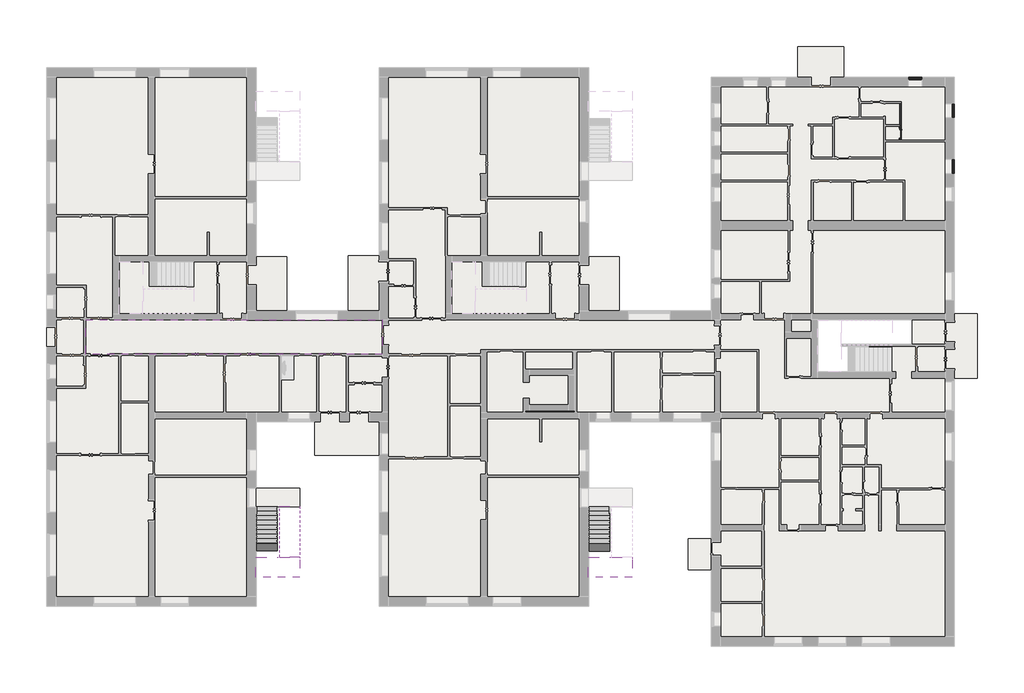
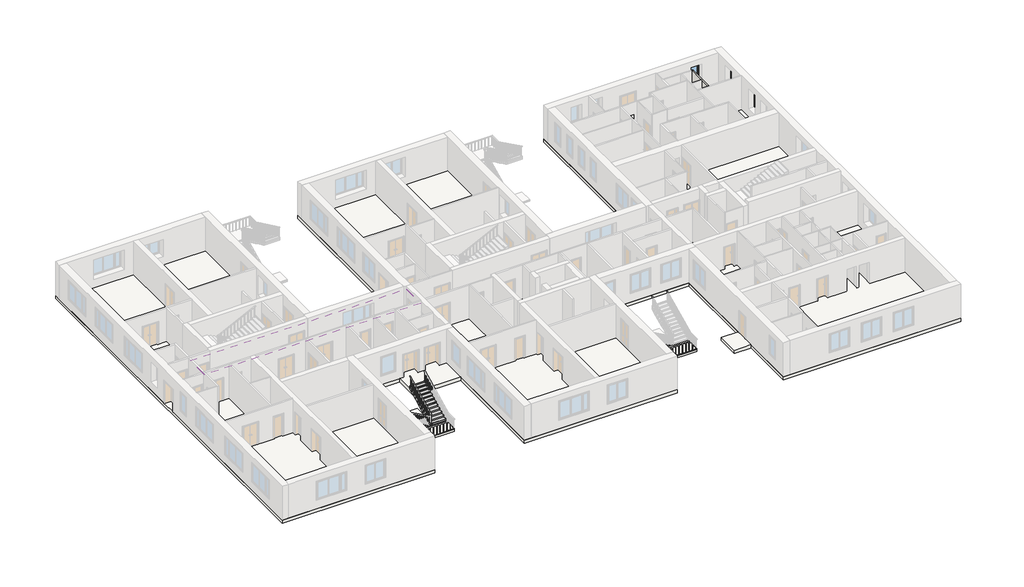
# One storey, part 6 of 10: 4 slabs, 3 stair flights, 3 windows, 1 covering, 1 door, 1 wall.
"""IFC4 building model written with IfcOpenShell, lengths in millimetres."""

from ifc_helpers import new_model, si_unit, frame, origin, origin_with_axes, place, context, project, spatial, polyline, outline, extrude, faceted_brep, transform, mapped, element, save
from components import door_4404b6de, window_74172d11

model = new_model("IFC4")

# Units and contexts
model_context = context("Model", 3, world=origin())
ifc_project = project(units=[si_unit("LENGTHUNIT", "METRE", prefix="MILLI")], contexts=[model_context])

# Site, building, storey
site = spatial("IfcSite", under=ifc_project)
building = spatial("IfcBuilding", under=site)
storey = spatial("IfcBuildingStorey", under=building, Name="1 этаж", Elevation=0.0)

# Covering
placement = place(None, origin())
element("IfcCovering", 1, ObjectType="ADSK_Армстронг_600х600", at=placement, inside=storey, context=model_context, shape_type="SweptSolid", body=[
    extrude(outline(polyline([(-16592.3240021, 6244.6370105), (-16592.3240021, 3999.6370105), (-35897.3240021, 3999.6370105), (-35897.3240021, 6244.6370105), (-16592.3240021, 6244.6370105)])), frame((0.0, 0.0, 2900.0), z_axis=(0.0, 0.0, 1.0), x_axis=(1.0, 0.0, 0.0)), (0.0, 0.0, 1.0), 52.0),
])

# Door
door_shape = door_4404b6de(model_context)
element("IfcDoor", 2, ObjectType="Внутренняя дверь 1-Навесная - 6629-88 : ДГ 21-7  ГОСТ 6629-88", at=placement, inside=storey, context=model_context, shape_type="MappedRepresentation", body=[
    mapped(door_shape, transform((17147.6759979, 18384.6370105, 0.0), x_axis=(0.0, -1.0, 0.0), y_axis=(1.0, 0.0, 0.0), z_axis=(0.0, 0.0, 1.0))),
])

# Slabs
element("IfcSlab", 3, ObjectType="ADSK_Перекрытие_Плита с полом_Бетон220 лаги40 доска40_300", at=placement, inside=storey, context=model_context, shape_type="SweptSolid", body=[
    extrude(outline(polyline([(4837.6759979, -15025.3629895), (4837.6759979, -10025.3421774), (3337.6759979, -10025.3421774), (3337.6759979, -8025.3421774), (4837.6759979, -8025.3421774), (4837.6759979, -385.3629895), (-3162.3240021, -385.3629895), (-3162.3240021, -12415.3629895), (-16802.3240021, -12415.3629895), (-16802.3240021, -2585.3629895), (-21002.3240021, -2585.3629895), (-21002.3240021, -385.3629895), (-24802.3240021, -385.3629895), (-24802.3240021, -12415.3629895), (-38442.3240021, -12415.3629895), (-38442.3240021, 22644.6370105), (-24802.3240021, 22644.6370105), (-24802.3240021, 10334.6370105), (-22802.3240021, 10334.6370105), (-22802.3240021, 6834.6370105), (-18812.3240021, 6834.6370105), (-18812.3240021, 10404.6370105), (-16802.3240021, 10404.6370105), (-16802.3240021, 22644.6370105), (-3162.3240021, 22644.6370105), (-3162.3240021, 10334.6370105), (-1162.3240021, 10334.6370105), (-1162.3240021, 6834.6370105), (4837.6759979, 6834.6370105), (4837.6759979, 22034.6370105), (10454.2700808, 22034.6370105), (10454.2700808, 24034.6370105), (13454.2700808, 24034.6370105), (13454.2700808, 22034.6370105), (20667.6759979, 22034.6370105), (20667.6759979, 6624.6370105), (22167.6759979, 6624.6370105), (22167.6759979, 2444.6370105), (20667.6759979, 2444.6370105), (20667.6759979, -15025.3629895), (4837.6759979, -15025.3629895)]), holes=[polyline([(17875.1759979, 6244.6370105), (11737.6759979, 6244.6370105), (11737.6759979, 2844.6370105), (15083.3708722, 2844.6370105), (15083.3708722, 4519.5648158), (17875.1759979, 4519.5648158), (17875.1759979, 6244.6370105)])]), frame((0.0, 0.0, -300.0), z_axis=(0.0, 0.0, 1.0), x_axis=(1.0, 0.0, 0.0)), (0.0, 0.0, 1.0), 300.0),
])
element("IfcSlab", 4, ObjectType="ADSK_Монолитная_С отделкой_200х80", at=placement, inside=storey, context=model_context, shape_type="SolidModel", body=[
    faceted_brep([(-23422.7240021, -9226.3785186, 1670.0), (-23422.7240021, -9241.3785186, 1670.0), (-24802.3240021, -9241.3785186, 1670.0), (-24802.3240021, -9226.3785186, 1670.0), (-24822.3240021, -9226.3785186, 1670.0), (-24822.3240021, -10515.9785186, 1670.0), (-21952.7240021, -10515.9785186, 1670.0), (-21952.7240021, -9382.5661033, 1670.0), (-21952.7240021, -9226.3785186, 1670.0), (-21952.7240021, -9211.3785186, 1670.0), (-23281.9240021, -9211.3785186, 1670.0), (-23281.9240021, -9226.3785186, 1670.0), (-24802.3240021, -9226.3785186, 1470.0), (-24822.3240021, -9226.3785186, 1470.0), (-23281.9240021, -9226.3785186, 1545.9245203), (-23281.9240021, -9226.3785186, 1470.0), (-23422.7240021, -9226.3785186, 1470.0), (-21952.7240021, -9211.3785186, 1553.216187), (-23281.9240021, -9211.3785186, 1553.216187), (-21952.7240021, -10515.9785186, 1470.0), (-21952.7240021, -9382.5661033, 1470.0), (-21952.7240021, -9226.3785186, 1545.9245203), (-24822.3240021, -10515.9785186, 1470.0), (-23281.9240021, -9382.5661033, 1470.0), (-24802.3240021, -9241.3785186, 1470.0), (-24802.3240021, -9370.1909339, 1470.0), (-23422.7240021, -9370.1909339, 1470.0), (-23422.7240021, -9241.3785186, 1470.0), (-24802.3240021, -9241.3785186, 1407.3828537), (-23422.7240021, -9241.3785186, 1407.3828537), (-23422.7240021, -9241.3785186, 1574.1666667), (-24802.3240021, -9241.3785186, 1574.1666667)], [[[0, 1, 2, 3, 4, 5, 6, 7, 8, 9, 10, 11]], [[4, 3, 12, 13]], [[0, 11, 14, 15, 16]], [[10, 9, 17, 18]], [[6, 19, 20, 21, 8, 7]], [[6, 5, 22, 19]], [[5, 4, 13, 22]], [[15, 23, 20, 19, 22, 13, 12, 24, 25, 26, 27, 16]], [[26, 25, 28, 29]], [[27, 26, 29]], [[25, 24, 28]], [[20, 23, 14, 18, 17, 21]], [[2, 1, 30, 27, 29, 28, 24, 31]], [[3, 2, 31, 24, 12]], [[1, 0, 16, 27, 30]], [[9, 8, 21, 17]], [[11, 10, 18, 14]], [[23, 15, 14]]]),
    extrude(outline(polyline([(-23422.7240021, -9226.3785186), (-23281.9240021, -9226.3785186), (-21952.7240021, -9226.3785186), (-21952.7240021, -10515.9785186), (-24822.3240021, -10515.9785186), (-24822.3240021, -9226.3785186), (-24802.3240021, -9226.3785186), (-23422.7240021, -9226.3785186)])), frame((0.0, 0.0, 1670.0), z_axis=(0.0, 0.0, 1.0), x_axis=(1.0, 0.0, 0.0)), (0.0, 0.0, 1.0), 80.0),
])
element("IfcSlab", 5, ObjectType="ADSK_Монолитная_С отделкой_200х80", at=placement, inside=storey, context=model_context, shape_type="SweptSolid", body=[
    extrude(outline(polyline([(-24802.3240021, -4725.3629895), (-21952.3240021, -4725.3629895), (-21952.3240021, -5926.3785186), (-24802.3240021, -5926.3785186), (-24802.3240021, -4725.3629895)])), origin_with_axes(), (0.0, 0.0, 1.0), 65.8333333),
    extrude(outline(polyline([(-21952.3240021, -4725.3629895), (-21952.3240021, -5926.3785186), (-24802.3240021, -5926.3785186), (-24802.3240021, -4725.3629895), (-21952.3240021, -4725.3629895)])), frame((0.0, 0.0, 65.8333333), z_axis=(0.0, 0.0, 1.0), x_axis=(1.0, 0.0, 0.0)), (0.0, 0.0, 1.0), 80.0),
])
element("IfcSlab", 6, ObjectType="ADSK_Монолитная_С отделкой_200х80", at=placement, inside=storey, context=model_context, shape_type="SolidModel", body=[
    faceted_brep([(-1782.7240021, -9231.5777713, 1670.0), (-1782.7240021, -9246.5777713, 1670.0), (-3162.3240021, -9246.5777713, 1670.0), (-3162.3240021, -9231.5777713, 1670.0), (-3182.3240021, -9231.5777713, 1670.0), (-3182.3240021, -10521.1777713, 1670.0), (-312.7240021, -10521.1777713, 1670.0), (-312.7240021, -9387.765356, 1670.0), (-312.7240021, -9231.5777713, 1670.0), (-312.7240021, -9216.5777713, 1670.0), (-1641.9240021, -9216.5777713, 1670.0), (-1641.9240021, -9231.5777713, 1670.0), (-3162.3240021, -9231.5777713, 1470.0), (-3182.3240021, -9231.5777713, 1470.0), (-1641.9240021, -9231.5777713, 1545.9245203), (-1641.9240021, -9231.5777713, 1470.0), (-1782.7240021, -9231.5777713, 1470.0), (-312.7240021, -9216.5777713, 1553.216187), (-1641.9240021, -9216.5777713, 1553.216187), (-312.7240021, -10521.1777713, 1470.0), (-312.7240021, -9387.765356, 1470.0), (-312.7240021, -9231.5777713, 1545.9245203), (-3182.3240021, -10521.1777713, 1470.0), (-1641.9240021, -9387.765356, 1470.0), (-3162.3240021, -9246.5777713, 1470.0), (-3162.3240021, -9375.3901866, 1470.0), (-1782.7240021, -9375.3901866, 1470.0), (-1782.7240021, -9246.5777713, 1470.0), (-3162.3240021, -9246.5777713, 1407.3828537), (-1782.7240021, -9246.5777713, 1407.3828537), (-1782.7240021, -9246.5777713, 1574.1666667), (-3162.3240021, -9246.5777713, 1574.1666667)], [[[0, 1, 2, 3, 4, 5, 6, 7, 8, 9, 10, 11]], [[4, 3, 12, 13]], [[0, 11, 14, 15, 16]], [[10, 9, 17, 18]], [[6, 19, 20, 21, 8, 7]], [[6, 5, 22, 19]], [[5, 4, 13, 22]], [[15, 23, 20, 19, 22, 13, 12, 24, 25, 26, 27, 16]], [[26, 25, 28, 29]], [[27, 26, 29]], [[25, 24, 28]], [[20, 23, 14, 18, 17, 21]], [[2, 1, 30, 27, 29, 28, 24, 31]], [[3, 2, 31, 24, 12]], [[1, 0, 16, 27, 30]], [[9, 8, 21, 17]], [[11, 10, 18, 14]], [[23, 15, 14]]]),
    extrude(outline(polyline([(-1782.7240021, -9231.5777713), (-1641.9240021, -9231.5777713), (-312.7240021, -9231.5777713), (-312.7240021, -10521.1777713), (-3182.3240021, -10521.1777713), (-3182.3240021, -9231.5777713), (-3162.3240021, -9231.5777713), (-1782.7240021, -9231.5777713)])), frame((0.0, 0.0, 1670.0), z_axis=(0.0, 0.0, 1.0), x_axis=(1.0, 0.0, 0.0)), (0.0, 0.0, 1.0), 80.0),
])

# Stair flights
element("IfcStairFlight", 7, ObjectType="ADSK_Монолитный_С отделкой_150х30х15", at=placement, inside=storey, context=model_context, shape_type="SolidModel", body=[
    faceted_brep([(-23422.7240021, -6241.3785186, 115.8333333), (-23422.7240021, -5941.3785186, 115.8333333), (-24802.3240021, -5941.3785186, 115.8333333), (-24802.3240021, -6241.3785186, 115.8333333), (-24802.3240021, -5941.3785186, 0.0), (-24802.3240021, -6241.3785186, 0.0), (-23422.7240021, -5941.3785186, 0.0), (-23422.7240021, -6241.3785186, 0.0), (-23422.7240021, -6541.3785186, 261.6666667), (-23422.7240021, -6241.3785186, 261.6666667), (-24802.3240021, -6241.3785186, 261.6666667), (-24802.3240021, -6541.3785186, 261.6666667), (-24802.3240021, -6346.1909339, 0.0), (-24802.3240021, -6541.3785186, 94.8828537), (-23422.7240021, -6541.3785186, 94.8828537), (-23422.7240021, -6346.1909339, 0.0), (-23422.7240021, -6841.3785186, 407.5), (-23422.7240021, -6541.3785186, 407.5), (-24802.3240021, -6541.3785186, 407.5), (-24802.3240021, -6841.3785186, 407.5), (-24802.3240021, -6841.3785186, 240.716187), (-23422.7240021, -6841.3785186, 240.716187), (-23422.7240021, -7141.3785186, 553.3333333), (-23422.7240021, -6841.3785186, 553.3333333), (-24802.3240021, -6841.3785186, 553.3333333), (-24802.3240021, -7141.3785186, 553.3333333), (-24802.3240021, -7141.3785186, 386.5495203), (-23422.7240021, -7141.3785186, 386.5495203), (-23422.7240021, -7441.3785186, 699.1666667), (-23422.7240021, -7141.3785186, 699.1666667), (-24802.3240021, -7141.3785186, 699.1666667), (-24802.3240021, -7441.3785186, 699.1666667), (-24802.3240021, -7441.3785186, 532.3828537), (-23422.7240021, -7441.3785186, 532.3828537), (-23422.7240021, -7741.3785186, 845.0), (-23422.7240021, -7441.3785186, 845.0), (-24802.3240021, -7441.3785186, 845.0), (-24802.3240021, -7741.3785186, 845.0), (-24802.3240021, -7741.3785186, 678.216187), (-23422.7240021, -7741.3785186, 678.216187), (-23422.7240021, -8041.3785186, 990.8333333), (-23422.7240021, -7741.3785186, 990.8333333), (-24802.3240021, -7741.3785186, 990.8333333), (-24802.3240021, -8041.3785186, 990.8333333), (-24802.3240021, -8041.3785186, 824.0495203), (-23422.7240021, -8041.3785186, 824.0495203), (-23422.7240021, -8341.3785186, 1136.6666667), (-23422.7240021, -8041.3785186, 1136.6666667), (-24802.3240021, -8041.3785186, 1136.6666667), (-24802.3240021, -8341.3785186, 1136.6666667), (-24802.3240021, -8341.3785186, 969.8828537), (-23422.7240021, -8341.3785186, 969.8828537), (-23422.7240021, -8641.3785186, 1282.5), (-23422.7240021, -8341.3785186, 1282.5), (-24802.3240021, -8341.3785186, 1282.5), (-24802.3240021, -8641.3785186, 1282.5), (-24802.3240021, -8641.3785186, 1115.716187), (-23422.7240021, -8641.3785186, 1115.716187), (-23422.7240021, -8941.3785186, 1428.3333333), (-23422.7240021, -8641.3785186, 1428.3333333), (-24802.3240021, -8641.3785186, 1428.3333333), (-24802.3240021, -8941.3785186, 1428.3333333), (-24802.3240021, -8941.3785186, 1261.5495203), (-23422.7240021, -8941.3785186, 1261.5495203), (-23422.7240021, -8941.3785186, 1574.1666667), (-24802.3240021, -8941.3785186, 1574.1666667), (-24802.3240021, -9226.3785186, 1574.1666667), (-24802.3240021, -9241.3785186, 1574.1666667), (-23422.7240021, -9241.3785186, 1574.1666667), (-23422.7240021, -9226.3785186, 1574.1666667), (-24802.3240021, -9241.3785186, 1407.3828537), (-24802.3240021, -9241.3785186, 1470.0), (-23422.7240021, -9241.3785186, 1470.0), (-23422.7240021, -9241.3785186, 1407.3828537)], [[[0, 1, 2, 3]], [[3, 2, 4, 5]], [[2, 1, 6, 4]], [[1, 0, 7, 6]], [[8, 9, 10, 11]], [[3, 5, 12, 13, 11, 10]], [[0, 3, 10, 9]], [[7, 0, 9, 8, 14, 15]], [[16, 17, 18, 19]], [[19, 18, 11, 13, 20]], [[8, 11, 18, 17]], [[17, 16, 21, 14, 8]], [[22, 23, 24, 25]], [[25, 24, 19, 20, 26]], [[16, 19, 24, 23]], [[23, 22, 27, 21, 16]], [[28, 29, 30, 31]], [[31, 30, 25, 26, 32]], [[22, 25, 30, 29]], [[29, 28, 33, 27, 22]], [[34, 35, 36, 37]], [[37, 36, 31, 32, 38]], [[28, 31, 36, 35]], [[35, 34, 39, 33, 28]], [[40, 41, 42, 43]], [[43, 42, 37, 38, 44]], [[34, 37, 42, 41]], [[41, 40, 45, 39, 34]], [[46, 47, 48, 49]], [[49, 48, 43, 44, 50]], [[40, 43, 48, 47]], [[47, 46, 51, 45, 40]], [[52, 53, 54, 55]], [[55, 54, 49, 50, 56]], [[46, 49, 54, 53]], [[53, 52, 57, 51, 46]], [[58, 59, 60, 61]], [[61, 60, 55, 56, 62]], [[52, 55, 60, 59]], [[59, 58, 63, 57, 52]], [[64, 65, 66, 67, 68, 69]], [[65, 61, 62, 70, 71, 67, 66]], [[58, 61, 65, 64]], [[58, 64, 69, 68, 72, 73, 63]], [[68, 67, 71, 70, 73, 72]], [[6, 7, 15, 12, 5, 4]], [[12, 15, 14, 21, 27, 33, 39, 45, 51, 57, 63, 73, 70, 62, 56, 50, 44, 38, 32, 26, 20, 13]]]),
    extrude(outline(polyline([(-24802.3240021, -5941.3785186), (-24802.3240021, -5926.3785186), (-23422.7240021, -5926.3785186), (-23422.7240021, -5941.3785186), (-24802.3240021, -5941.3785186)])), origin_with_axes(), (0.0, 0.0, 1.0), 115.8333333),
    extrude(outline(polyline([(-23422.7240021, -6226.3785186), (-24802.3240021, -6226.3785186), (-24802.3240021, -5926.3785186), (-23422.7240021, -5926.3785186), (-23422.7240021, -6226.3785186)])), frame((0.0, 0.0, 115.8333333), z_axis=(0.0, 0.0, 1.0), x_axis=(1.0, 0.0, 0.0)), (0.0, 0.0, 1.0), 30.0),
    extrude(outline(polyline([(-24802.3240021, -6241.3785186), (-24802.3240021, -6226.3785186), (-23422.7240021, -6226.3785186), (-23422.7240021, -6241.3785186), (-24802.3240021, -6241.3785186)])), frame((0.0, 0.0, 115.8333333), z_axis=(0.0, 0.0, 1.0), x_axis=(1.0, 0.0, 0.0)), (0.0, 0.0, 1.0), 145.8333333),
    extrude(outline(polyline([(-23422.7240021, -6526.3785186), (-24802.3240021, -6526.3785186), (-24802.3240021, -6226.3785186), (-23422.7240021, -6226.3785186), (-23422.7240021, -6526.3785186)])), frame((0.0, 0.0, 261.6666667), z_axis=(0.0, 0.0, 1.0), x_axis=(1.0, 0.0, 0.0)), (0.0, 0.0, 1.0), 30.0),
    extrude(outline(polyline([(-24802.3240021, -6541.3785186), (-24802.3240021, -6526.3785186), (-23422.7240021, -6526.3785186), (-23422.7240021, -6541.3785186), (-24802.3240021, -6541.3785186)])), frame((0.0, 0.0, 261.6666667), z_axis=(0.0, 0.0, 1.0), x_axis=(1.0, 0.0, 0.0)), (0.0, 0.0, 1.0), 145.8333333),
    extrude(outline(polyline([(-23422.7240021, -6826.3785186), (-24802.3240021, -6826.3785186), (-24802.3240021, -6526.3785186), (-23422.7240021, -6526.3785186), (-23422.7240021, -6826.3785186)])), frame((0.0, 0.0, 407.5), z_axis=(0.0, 0.0, 1.0), x_axis=(1.0, 0.0, 0.0)), (0.0, 0.0, 1.0), 30.0),
    extrude(outline(polyline([(-24802.3240021, -6841.3785186), (-24802.3240021, -6826.3785186), (-23422.7240021, -6826.3785186), (-23422.7240021, -6841.3785186), (-24802.3240021, -6841.3785186)])), frame((0.0, 0.0, 407.5), z_axis=(0.0, 0.0, 1.0), x_axis=(1.0, 0.0, 0.0)), (0.0, 0.0, 1.0), 145.8333333),
    extrude(outline(polyline([(-23422.7240021, -7126.3785186), (-24802.3240021, -7126.3785186), (-24802.3240021, -6826.3785186), (-23422.7240021, -6826.3785186), (-23422.7240021, -7126.3785186)])), frame((0.0, 0.0, 553.3333333), z_axis=(0.0, 0.0, 1.0), x_axis=(1.0, 0.0, 0.0)), (0.0, 0.0, 1.0), 30.0),
    extrude(outline(polyline([(-24802.3240021, -7141.3785186), (-24802.3240021, -7126.3785186), (-23422.7240021, -7126.3785186), (-23422.7240021, -7141.3785186), (-24802.3240021, -7141.3785186)])), frame((0.0, 0.0, 553.3333333), z_axis=(0.0, 0.0, 1.0), x_axis=(1.0, 0.0, 0.0)), (0.0, 0.0, 1.0), 145.8333333),
    extrude(outline(polyline([(-23422.7240021, -7426.3785186), (-24802.3240021, -7426.3785186), (-24802.3240021, -7126.3785186), (-23422.7240021, -7126.3785186), (-23422.7240021, -7426.3785186)])), frame((0.0, 0.0, 699.1666667), z_axis=(0.0, 0.0, 1.0), x_axis=(1.0, 0.0, 0.0)), (0.0, 0.0, 1.0), 30.0),
    extrude(outline(polyline([(-24802.3240021, -7441.3785186), (-24802.3240021, -7426.3785186), (-23422.7240021, -7426.3785186), (-23422.7240021, -7441.3785186), (-24802.3240021, -7441.3785186)])), frame((0.0, 0.0, 699.1666667), z_axis=(0.0, 0.0, 1.0), x_axis=(1.0, 0.0, 0.0)), (0.0, 0.0, 1.0), 145.8333333),
    extrude(outline(polyline([(-23422.7240021, -7726.3785186), (-24802.3240021, -7726.3785186), (-24802.3240021, -7426.3785186), (-23422.7240021, -7426.3785186), (-23422.7240021, -7726.3785186)])), frame((0.0, 0.0, 845.0), z_axis=(0.0, 0.0, 1.0), x_axis=(1.0, 0.0, 0.0)), (0.0, 0.0, 1.0), 30.0),
    extrude(outline(polyline([(-24802.3240021, -7741.3785186), (-24802.3240021, -7726.3785186), (-23422.7240021, -7726.3785186), (-23422.7240021, -7741.3785186), (-24802.3240021, -7741.3785186)])), frame((0.0, 0.0, 845.0), z_axis=(0.0, 0.0, 1.0), x_axis=(1.0, 0.0, 0.0)), (0.0, 0.0, 1.0), 145.8333333),
    extrude(outline(polyline([(-23422.7240021, -8026.3785186), (-24802.3240021, -8026.3785186), (-24802.3240021, -7726.3785186), (-23422.7240021, -7726.3785186), (-23422.7240021, -8026.3785186)])), frame((0.0, 0.0, 990.8333333), z_axis=(0.0, 0.0, 1.0), x_axis=(1.0, 0.0, 0.0)), (0.0, 0.0, 1.0), 30.0),
    extrude(outline(polyline([(-24802.3240021, -8041.3785186), (-24802.3240021, -8026.3785186), (-23422.7240021, -8026.3785186), (-23422.7240021, -8041.3785186), (-24802.3240021, -8041.3785186)])), frame((0.0, 0.0, 990.8333333), z_axis=(0.0, 0.0, 1.0), x_axis=(1.0, 0.0, 0.0)), (0.0, 0.0, 1.0), 145.8333333),
    extrude(outline(polyline([(-23422.7240021, -8326.3785186), (-24802.3240021, -8326.3785186), (-24802.3240021, -8026.3785186), (-23422.7240021, -8026.3785186), (-23422.7240021, -8326.3785186)])), frame((0.0, 0.0, 1136.6666667), z_axis=(0.0, 0.0, 1.0), x_axis=(1.0, 0.0, 0.0)), (0.0, 0.0, 1.0), 30.0),
    extrude(outline(polyline([(-24802.3240021, -8341.3785186), (-24802.3240021, -8326.3785186), (-23422.7240021, -8326.3785186), (-23422.7240021, -8341.3785186), (-24802.3240021, -8341.3785186)])), frame((0.0, 0.0, 1136.6666667), z_axis=(0.0, 0.0, 1.0), x_axis=(1.0, 0.0, 0.0)), (0.0, 0.0, 1.0), 145.8333333),
    extrude(outline(polyline([(-23422.7240021, -8626.3785186), (-24802.3240021, -8626.3785186), (-24802.3240021, -8326.3785186), (-23422.7240021, -8326.3785186), (-23422.7240021, -8626.3785186)])), frame((0.0, 0.0, 1282.5), z_axis=(0.0, 0.0, 1.0), x_axis=(1.0, 0.0, 0.0)), (0.0, 0.0, 1.0), 30.0),
    extrude(outline(polyline([(-24802.3240021, -8641.3785186), (-24802.3240021, -8626.3785186), (-23422.7240021, -8626.3785186), (-23422.7240021, -8641.3785186), (-24802.3240021, -8641.3785186)])), frame((0.0, 0.0, 1282.5), z_axis=(0.0, 0.0, 1.0), x_axis=(1.0, 0.0, 0.0)), (0.0, 0.0, 1.0), 145.8333333),
    extrude(outline(polyline([(-23422.7240021, -8926.3785186), (-24802.3240021, -8926.3785186), (-24802.3240021, -8626.3785186), (-23422.7240021, -8626.3785186), (-23422.7240021, -8926.3785186)])), frame((0.0, 0.0, 1428.3333333), z_axis=(0.0, 0.0, 1.0), x_axis=(1.0, 0.0, 0.0)), (0.0, 0.0, 1.0), 30.0),
    extrude(outline(polyline([(-24802.3240021, -8941.3785186), (-24802.3240021, -8926.3785186), (-23422.7240021, -8926.3785186), (-23422.7240021, -8941.3785186), (-24802.3240021, -8941.3785186)])), frame((0.0, 0.0, 1428.3333333), z_axis=(0.0, 0.0, 1.0), x_axis=(1.0, 0.0, 0.0)), (0.0, 0.0, 1.0), 145.8333333),
    extrude(outline(polyline([(-24802.3240021, -9241.3785186), (-24802.3240021, -9226.3785186), (-23422.7240021, -9226.3785186), (-23422.7240021, -9241.3785186), (-24802.3240021, -9241.3785186)])), frame((0.0, 0.0, 1574.1666667), z_axis=(0.0, 0.0, 1.0), x_axis=(1.0, 0.0, 0.0)), (0.0, 0.0, 1.0), 95.8333333),
    extrude(outline(polyline([(-23422.7240021, -9226.3785186), (-24802.3240021, -9226.3785186), (-24802.3240021, -8926.3785186), (-23422.7240021, -8926.3785186), (-23422.7240021, -9226.3785186)])), frame((0.0, 0.0, 1574.1666667), z_axis=(0.0, 0.0, 1.0), x_axis=(1.0, 0.0, 0.0)), (0.0, 0.0, 1.0), 30.0),
])
element("IfcStairFlight", 8, ObjectType="ADSK_Монолитный_С отделкой_150х30х15", at=placement, inside=storey, context=model_context, shape_type="SolidModel", body=[
    faceted_brep([(-23281.9240021, -8911.3785186, 1865.8333333), (-23281.9240021, -9211.3785186, 1865.8333333), (-21952.7240021, -9211.3785186, 1865.8333333), (-21952.7240021, -8911.3785186, 1865.8333333), (-21952.7240021, -9211.3785186, 1670.0), (-21952.7240021, -9211.3785186, 1553.216187), (-21952.7240021, -8911.3785186, 1699.0495203), (-23281.9240021, -9211.3785186, 1670.0), (-23281.9240021, -9211.3785186, 1553.216187), (-23281.9240021, -8911.3785186, 1699.0495203), (-23281.9240021, -8611.3785186, 2011.6666667), (-23281.9240021, -8911.3785186, 2011.6666667), (-21952.7240021, -8911.3785186, 2011.6666667), (-21952.7240021, -8611.3785186, 2011.6666667), (-21952.7240021, -8611.3785186, 1844.8828537), (-23281.9240021, -8611.3785186, 1844.8828537), (-23281.9240021, -8311.3785186, 2157.5), (-23281.9240021, -8611.3785186, 2157.5), (-21952.7240021, -8611.3785186, 2157.5), (-21952.7240021, -8311.3785186, 2157.5), (-21952.7240021, -8311.3785186, 1990.716187), (-23281.9240021, -8311.3785186, 1990.716187), (-23281.9240021, -8011.3785186, 2303.3333333), (-23281.9240021, -8311.3785186, 2303.3333333), (-21952.7240021, -8311.3785186, 2303.3333333), (-21952.7240021, -8011.3785186, 2303.3333333), (-21952.7240021, -8011.3785186, 2136.5495203), (-23281.9240021, -8011.3785186, 2136.5495203), (-23281.9240021, -7711.3785186, 2449.1666667), (-23281.9240021, -8011.3785186, 2449.1666667), (-21952.7240021, -8011.3785186, 2449.1666667), (-21952.7240021, -7711.3785186, 2449.1666667), (-21952.7240021, -7711.3785186, 2282.3828537), (-23281.9240021, -7711.3785186, 2282.3828537), (-23281.9240021, -7411.3785186, 2595.0), (-23281.9240021, -7711.3785186, 2595.0), (-21952.7240021, -7711.3785186, 2595.0), (-21952.7240021, -7411.3785186, 2595.0), (-21952.7240021, -7411.3785186, 2428.216187), (-23281.9240021, -7411.3785186, 2428.216187), (-23281.9240021, -7111.3785186, 2740.8333333), (-23281.9240021, -7411.3785186, 2740.8333333), (-21952.7240021, -7411.3785186, 2740.8333333), (-21952.7240021, -7111.3785186, 2740.8333333), (-21952.7240021, -7111.3785186, 2574.0495203), (-23281.9240021, -7111.3785186, 2574.0495203), (-23281.9240021, -6811.3785186, 2886.6666667), (-23281.9240021, -7111.3785186, 2886.6666667), (-21952.7240021, -7111.3785186, 2886.6666667), (-21952.7240021, -6811.3785186, 2886.6666667), (-21952.7240021, -6811.3785186, 2719.8828537), (-23281.9240021, -6811.3785186, 2719.8828537), (-23281.9240021, -6511.3785186, 3032.5), (-23281.9240021, -6811.3785186, 3032.5), (-21952.7240021, -6811.3785186, 3032.5), (-21952.7240021, -6511.3785186, 3032.5), (-21952.7240021, -6511.3785186, 2865.716187), (-23281.9240021, -6511.3785186, 2865.716187), (-23281.9240021, -6211.3785186, 3178.3333333), (-23281.9240021, -6511.3785186, 3178.3333333), (-21952.7240021, -6511.3785186, 3178.3333333), (-21952.7240021, -6211.3785186, 3178.3333333), (-21952.7240021, -6211.3785186, 3011.5495203), (-23281.9240021, -6211.3785186, 3011.5495203), (-23281.9240021, -5911.3785186, 3324.1666667), (-23281.9240021, -6211.3785186, 3324.1666667), (-21952.7240021, -6211.3785186, 3324.1666667), (-21952.7240021, -5911.3785186, 3324.1666667), (-21952.7240021, -5911.3785186, 3157.3828537), (-23281.9240021, -5911.3785186, 3157.3828537)], [[[0, 1, 2, 3]], [[3, 2, 4, 5, 6]], [[2, 1, 7, 8, 5, 4]], [[1, 0, 9, 8, 7]], [[10, 11, 12, 13]], [[13, 12, 3, 6, 14]], [[12, 11, 0, 3]], [[11, 10, 15, 9, 0]], [[16, 17, 18, 19]], [[19, 18, 13, 14, 20]], [[18, 17, 10, 13]], [[17, 16, 21, 15, 10]], [[22, 23, 24, 25]], [[25, 24, 19, 20, 26]], [[24, 23, 16, 19]], [[23, 22, 27, 21, 16]], [[28, 29, 30, 31]], [[31, 30, 25, 26, 32]], [[30, 29, 22, 25]], [[29, 28, 33, 27, 22]], [[34, 35, 36, 37]], [[37, 36, 31, 32, 38]], [[36, 35, 28, 31]], [[35, 34, 39, 33, 28]], [[40, 41, 42, 43]], [[43, 42, 37, 38, 44]], [[42, 41, 34, 37]], [[41, 40, 45, 39, 34]], [[46, 47, 48, 49]], [[49, 48, 43, 44, 50]], [[48, 47, 40, 43]], [[47, 46, 51, 45, 40]], [[52, 53, 54, 55]], [[55, 54, 49, 50, 56]], [[54, 53, 46, 49]], [[53, 52, 57, 51, 46]], [[58, 59, 60, 61]], [[61, 60, 55, 56, 62]], [[60, 59, 52, 55]], [[59, 58, 63, 57, 52]], [[64, 65, 66, 67]], [[67, 66, 61, 62, 68]], [[66, 65, 58, 61]], [[65, 64, 69, 63, 58]], [[64, 67, 68, 69]], [[8, 9, 15, 21, 27, 33, 39, 45, 51, 57, 63, 69, 68, 62, 56, 50, 44, 38, 32, 26, 20, 14, 6, 5]]]),
    extrude(outline(polyline([(-21952.7240021, -9211.3785186), (-21952.7240021, -9226.3785186), (-23281.9240021, -9226.3785186), (-23281.9240021, -9211.3785186), (-21952.7240021, -9211.3785186)])), frame((0.0, 0.0, 1670.0), z_axis=(0.0, 0.0, 1.0), x_axis=(1.0, 0.0, 0.0)), (0.0, 0.0, 1.0), 195.8333333),
    extrude(outline(polyline([(-23281.9240021, -8926.3785186), (-21952.7240021, -8926.3785186), (-21952.7240021, -9226.3785186), (-23281.9240021, -9226.3785186), (-23281.9240021, -8926.3785186)])), frame((0.0, 0.0, 1865.8333333), z_axis=(0.0, 0.0, 1.0), x_axis=(1.0, 0.0, 0.0)), (0.0, 0.0, 1.0), 30.0),
    extrude(outline(polyline([(-21952.7240021, -8911.3785186), (-21952.7240021, -8926.3785186), (-23281.9240021, -8926.3785186), (-23281.9240021, -8911.3785186), (-21952.7240021, -8911.3785186)])), frame((0.0, 0.0, 1865.8333333), z_axis=(0.0, 0.0, 1.0), x_axis=(1.0, 0.0, 0.0)), (0.0, 0.0, 1.0), 145.8333333),
    extrude(outline(polyline([(-23281.9240021, -8626.3785186), (-21952.7240021, -8626.3785186), (-21952.7240021, -8926.3785186), (-23281.9240021, -8926.3785186), (-23281.9240021, -8626.3785186)])), frame((0.0, 0.0, 2011.6666667), z_axis=(0.0, 0.0, 1.0), x_axis=(1.0, 0.0, 0.0)), (0.0, 0.0, 1.0), 30.0),
    extrude(outline(polyline([(-21952.7240021, -8611.3785186), (-21952.7240021, -8626.3785186), (-23281.9240021, -8626.3785186), (-23281.9240021, -8611.3785186), (-21952.7240021, -8611.3785186)])), frame((0.0, 0.0, 2011.6666667), z_axis=(0.0, 0.0, 1.0), x_axis=(1.0, 0.0, 0.0)), (0.0, 0.0, 1.0), 145.8333333),
    extrude(outline(polyline([(-23281.9240021, -8326.3785186), (-21952.7240021, -8326.3785186), (-21952.7240021, -8626.3785186), (-23281.9240021, -8626.3785186), (-23281.9240021, -8326.3785186)])), frame((0.0, 0.0, 2157.5), z_axis=(0.0, 0.0, 1.0), x_axis=(1.0, 0.0, 0.0)), (0.0, 0.0, 1.0), 30.0),
    extrude(outline(polyline([(-21952.7240021, -8311.3785186), (-21952.7240021, -8326.3785186), (-23281.9240021, -8326.3785186), (-23281.9240021, -8311.3785186), (-21952.7240021, -8311.3785186)])), frame((0.0, 0.0, 2157.5), z_axis=(0.0, 0.0, 1.0), x_axis=(1.0, 0.0, 0.0)), (0.0, 0.0, 1.0), 145.8333333),
    extrude(outline(polyline([(-23281.9240021, -8026.3785186), (-21952.7240021, -8026.3785186), (-21952.7240021, -8326.3785186), (-23281.9240021, -8326.3785186), (-23281.9240021, -8026.3785186)])), frame((0.0, 0.0, 2303.3333333), z_axis=(0.0, 0.0, 1.0), x_axis=(1.0, 0.0, 0.0)), (0.0, 0.0, 1.0), 30.0),
    extrude(outline(polyline([(-21952.7240021, -8011.3785186), (-21952.7240021, -8026.3785186), (-23281.9240021, -8026.3785186), (-23281.9240021, -8011.3785186), (-21952.7240021, -8011.3785186)])), frame((0.0, 0.0, 2303.3333333), z_axis=(0.0, 0.0, 1.0), x_axis=(1.0, 0.0, 0.0)), (0.0, 0.0, 1.0), 145.8333333),
    extrude(outline(polyline([(-23281.9240021, -7726.3785186), (-21952.7240021, -7726.3785186), (-21952.7240021, -8026.3785186), (-23281.9240021, -8026.3785186), (-23281.9240021, -7726.3785186)])), frame((0.0, 0.0, 2449.1666667), z_axis=(0.0, 0.0, 1.0), x_axis=(1.0, 0.0, 0.0)), (0.0, 0.0, 1.0), 30.0),
    extrude(outline(polyline([(-21952.7240021, -7711.3785186), (-21952.7240021, -7726.3785186), (-23281.9240021, -7726.3785186), (-23281.9240021, -7711.3785186), (-21952.7240021, -7711.3785186)])), frame((0.0, 0.0, 2449.1666667), z_axis=(0.0, 0.0, 1.0), x_axis=(1.0, 0.0, 0.0)), (0.0, 0.0, 1.0), 145.8333333),
    extrude(outline(polyline([(-23281.9240021, -7426.3785186), (-21952.7240021, -7426.3785186), (-21952.7240021, -7726.3785186), (-23281.9240021, -7726.3785186), (-23281.9240021, -7426.3785186)])), frame((0.0, 0.0, 2595.0), z_axis=(0.0, 0.0, 1.0), x_axis=(1.0, 0.0, 0.0)), (0.0, 0.0, 1.0), 30.0),
    extrude(outline(polyline([(-21952.7240021, -7411.3785186), (-21952.7240021, -7426.3785186), (-23281.9240021, -7426.3785186), (-23281.9240021, -7411.3785186), (-21952.7240021, -7411.3785186)])), frame((0.0, 0.0, 2595.0), z_axis=(0.0, 0.0, 1.0), x_axis=(1.0, 0.0, 0.0)), (0.0, 0.0, 1.0), 145.8333333),
    extrude(outline(polyline([(-23281.9240021, -7126.3785186), (-21952.7240021, -7126.3785186), (-21952.7240021, -7426.3785186), (-23281.9240021, -7426.3785186), (-23281.9240021, -7126.3785186)])), frame((0.0, 0.0, 2740.8333333), z_axis=(0.0, 0.0, 1.0), x_axis=(1.0, 0.0, 0.0)), (0.0, 0.0, 1.0), 30.0),
    extrude(outline(polyline([(-21952.7240021, -7111.3785186), (-21952.7240021, -7126.3785186), (-23281.9240021, -7126.3785186), (-23281.9240021, -7111.3785186), (-21952.7240021, -7111.3785186)])), frame((0.0, 0.0, 2740.8333333), z_axis=(0.0, 0.0, 1.0), x_axis=(1.0, 0.0, 0.0)), (0.0, 0.0, 1.0), 145.8333333),
    extrude(outline(polyline([(-23281.9240021, -6826.3785186), (-21952.7240021, -6826.3785186), (-21952.7240021, -7126.3785186), (-23281.9240021, -7126.3785186), (-23281.9240021, -6826.3785186)])), frame((0.0, 0.0, 2886.6666667), z_axis=(0.0, 0.0, 1.0), x_axis=(1.0, 0.0, 0.0)), (0.0, 0.0, 1.0), 30.0),
    extrude(outline(polyline([(-21952.7240021, -6811.3785186), (-21952.7240021, -6826.3785186), (-23281.9240021, -6826.3785186), (-23281.9240021, -6811.3785186), (-21952.7240021, -6811.3785186)])), frame((0.0, 0.0, 2886.6666667), z_axis=(0.0, 0.0, 1.0), x_axis=(1.0, 0.0, 0.0)), (0.0, 0.0, 1.0), 145.8333333),
    extrude(outline(polyline([(-23281.9240021, -6526.3785186), (-21952.7240021, -6526.3785186), (-21952.7240021, -6826.3785186), (-23281.9240021, -6826.3785186), (-23281.9240021, -6526.3785186)])), frame((0.0, 0.0, 3032.5), z_axis=(0.0, 0.0, 1.0), x_axis=(1.0, 0.0, 0.0)), (0.0, 0.0, 1.0), 30.0),
    extrude(outline(polyline([(-21952.7240021, -6511.3785186), (-21952.7240021, -6526.3785186), (-23281.9240021, -6526.3785186), (-23281.9240021, -6511.3785186), (-21952.7240021, -6511.3785186)])), frame((0.0, 0.0, 3032.5), z_axis=(0.0, 0.0, 1.0), x_axis=(1.0, 0.0, 0.0)), (0.0, 0.0, 1.0), 145.8333333),
    extrude(outline(polyline([(-23281.9240021, -6226.3785186), (-21952.7240021, -6226.3785186), (-21952.7240021, -6526.3785186), (-23281.9240021, -6526.3785186), (-23281.9240021, -6226.3785186)])), frame((0.0, 0.0, 3178.3333333), z_axis=(0.0, 0.0, 1.0), x_axis=(1.0, 0.0, 0.0)), (0.0, 0.0, 1.0), 30.0),
    extrude(outline(polyline([(-21952.7240021, -6211.3785186), (-21952.7240021, -6226.3785186), (-23281.9240021, -6226.3785186), (-23281.9240021, -6211.3785186), (-21952.7240021, -6211.3785186)])), frame((0.0, 0.0, 3178.3333333), z_axis=(0.0, 0.0, 1.0), x_axis=(1.0, 0.0, 0.0)), (0.0, 0.0, 1.0), 145.8333333),
    extrude(outline(polyline([(-21952.7240021, -5911.3785186), (-21952.7240021, -5926.3785186), (-23281.9240021, -5926.3785186), (-23281.9240021, -5911.3785186), (-21952.7240021, -5911.3785186)])), frame((0.0, 0.0, 3324.1666667), z_axis=(0.0, 0.0, 1.0), x_axis=(1.0, 0.0, 0.0)), (0.0, 0.0, 1.0), 145.8333333),
    extrude(outline(polyline([(-23281.9240021, -5926.3785186), (-21952.7240021, -5926.3785186), (-21952.7240021, -6226.3785186), (-23281.9240021, -6226.3785186), (-23281.9240021, -5926.3785186)])), frame((0.0, 0.0, 3324.1666667), z_axis=(0.0, 0.0, 1.0), x_axis=(1.0, 0.0, 0.0)), (0.0, 0.0, 1.0), 30.0),
])
element("IfcStairFlight", 9, ObjectType="ADSK_Монолитный_С отделкой_150х30х15", at=placement, inside=storey, context=model_context, shape_type="SolidModel", body=[
    faceted_brep([(-1782.7240021, -6246.5777713, 115.8333333), (-1782.7240021, -5946.5777713, 115.8333333), (-3162.3240021, -5946.5777713, 115.8333333), (-3162.3240021, -6246.5777713, 115.8333333), (-3162.3240021, -5946.5777713, 0.0), (-3162.3240021, -6246.5777713, 0.0), (-1782.7240021, -5946.5777713, 0.0), (-1782.7240021, -6246.5777713, 0.0), (-1782.7240021, -6546.5777713, 261.6666667), (-1782.7240021, -6246.5777713, 261.6666667), (-3162.3240021, -6246.5777713, 261.6666667), (-3162.3240021, -6546.5777713, 261.6666667), (-3162.3240021, -6351.3901866, 0.0), (-3162.3240021, -6546.5777713, 94.8828537), (-1782.7240021, -6546.5777713, 94.8828537), (-1782.7240021, -6351.3901866, 0.0), (-1782.7240021, -6846.5777713, 407.5), (-1782.7240021, -6546.5777713, 407.5), (-3162.3240021, -6546.5777713, 407.5), (-3162.3240021, -6846.5777713, 407.5), (-3162.3240021, -6846.5777713, 240.716187), (-1782.7240021, -6846.5777713, 240.716187), (-1782.7240021, -7146.5777713, 553.3333333), (-1782.7240021, -6846.5777713, 553.3333333), (-3162.3240021, -6846.5777713, 553.3333333), (-3162.3240021, -7146.5777713, 553.3333333), (-3162.3240021, -7146.5777713, 386.5495203), (-1782.7240021, -7146.5777713, 386.5495203), (-1782.7240021, -7446.5777713, 699.1666667), (-1782.7240021, -7146.5777713, 699.1666667), (-3162.3240021, -7146.5777713, 699.1666667), (-3162.3240021, -7446.5777713, 699.1666667), (-3162.3240021, -7446.5777713, 532.3828537), (-1782.7240021, -7446.5777713, 532.3828537), (-1782.7240021, -7746.5777713, 845.0), (-1782.7240021, -7446.5777713, 845.0), (-3162.3240021, -7446.5777713, 845.0), (-3162.3240021, -7746.5777713, 845.0), (-3162.3240021, -7746.5777713, 678.216187), (-1782.7240021, -7746.5777713, 678.216187), (-1782.7240021, -8046.5777713, 990.8333333), (-1782.7240021, -7746.5777713, 990.8333333), (-3162.3240021, -7746.5777713, 990.8333333), (-3162.3240021, -8046.5777713, 990.8333333), (-3162.3240021, -8046.5777713, 824.0495203), (-1782.7240021, -8046.5777713, 824.0495203), (-1782.7240021, -8346.5777713, 1136.6666667), (-1782.7240021, -8046.5777713, 1136.6666667), (-3162.3240021, -8046.5777713, 1136.6666667), (-3162.3240021, -8346.5777713, 1136.6666667), (-3162.3240021, -8346.5777713, 969.8828537), (-1782.7240021, -8346.5777713, 969.8828537), (-1782.7240021, -8646.5777713, 1282.5), (-1782.7240021, -8346.5777713, 1282.5), (-3162.3240021, -8346.5777713, 1282.5), (-3162.3240021, -8646.5777713, 1282.5), (-3162.3240021, -8646.5777713, 1115.716187), (-1782.7240021, -8646.5777713, 1115.716187), (-1782.7240021, -8946.5777713, 1428.3333333), (-1782.7240021, -8646.5777713, 1428.3333333), (-3162.3240021, -8646.5777713, 1428.3333333), (-3162.3240021, -8946.5777713, 1428.3333333), (-3162.3240021, -8946.5777713, 1261.5495203), (-1782.7240021, -8946.5777713, 1261.5495203), (-1782.7240021, -8946.5777713, 1574.1666667), (-3162.3240021, -8946.5777713, 1574.1666667), (-3162.3240021, -9231.5777713, 1574.1666667), (-3162.3240021, -9246.5777713, 1574.1666667), (-1782.7240021, -9246.5777713, 1574.1666667), (-1782.7240021, -9231.5777713, 1574.1666667), (-3162.3240021, -9246.5777713, 1407.3828537), (-3162.3240021, -9246.5777713, 1470.0), (-1782.7240021, -9246.5777713, 1470.0), (-1782.7240021, -9246.5777713, 1407.3828537)], [[[0, 1, 2, 3]], [[3, 2, 4, 5]], [[2, 1, 6, 4]], [[1, 0, 7, 6]], [[8, 9, 10, 11]], [[3, 5, 12, 13, 11, 10]], [[0, 3, 10, 9]], [[7, 0, 9, 8, 14, 15]], [[16, 17, 18, 19]], [[19, 18, 11, 13, 20]], [[8, 11, 18, 17]], [[17, 16, 21, 14, 8]], [[22, 23, 24, 25]], [[25, 24, 19, 20, 26]], [[16, 19, 24, 23]], [[23, 22, 27, 21, 16]], [[28, 29, 30, 31]], [[31, 30, 25, 26, 32]], [[22, 25, 30, 29]], [[29, 28, 33, 27, 22]], [[34, 35, 36, 37]], [[37, 36, 31, 32, 38]], [[28, 31, 36, 35]], [[35, 34, 39, 33, 28]], [[40, 41, 42, 43]], [[43, 42, 37, 38, 44]], [[34, 37, 42, 41]], [[41, 40, 45, 39, 34]], [[46, 47, 48, 49]], [[49, 48, 43, 44, 50]], [[40, 43, 48, 47]], [[47, 46, 51, 45, 40]], [[52, 53, 54, 55]], [[55, 54, 49, 50, 56]], [[46, 49, 54, 53]], [[53, 52, 57, 51, 46]], [[58, 59, 60, 61]], [[61, 60, 55, 56, 62]], [[52, 55, 60, 59]], [[59, 58, 63, 57, 52]], [[64, 65, 66, 67, 68, 69]], [[65, 61, 62, 70, 71, 67, 66]], [[58, 61, 65, 64]], [[58, 64, 69, 68, 72, 73, 63]], [[68, 67, 71, 70, 73, 72]], [[6, 7, 15, 12, 5, 4]], [[12, 15, 14, 21, 27, 33, 39, 45, 51, 57, 63, 73, 70, 62, 56, 50, 44, 38, 32, 26, 20, 13]]]),
    extrude(outline(polyline([(-3162.3240021, -5946.5777713), (-3162.3240021, -5931.5777713), (-1782.7240021, -5931.5777713), (-1782.7240021, -5946.5777713), (-3162.3240021, -5946.5777713)])), origin_with_axes(), (0.0, 0.0, 1.0), 115.8333333),
    extrude(outline(polyline([(-1782.7240021, -6231.5777713), (-3162.3240021, -6231.5777713), (-3162.3240021, -5931.5777713), (-1782.7240021, -5931.5777713), (-1782.7240021, -6231.5777713)])), frame((0.0, 0.0, 115.8333333), z_axis=(0.0, 0.0, 1.0), x_axis=(1.0, 0.0, 0.0)), (0.0, 0.0, 1.0), 30.0),
    extrude(outline(polyline([(-3162.3240021, -6246.5777713), (-3162.3240021, -6231.5777713), (-1782.7240021, -6231.5777713), (-1782.7240021, -6246.5777713), (-3162.3240021, -6246.5777713)])), frame((0.0, 0.0, 115.8333333), z_axis=(0.0, 0.0, 1.0), x_axis=(1.0, 0.0, 0.0)), (0.0, 0.0, 1.0), 145.8333333),
    extrude(outline(polyline([(-1782.7240021, -6531.5777713), (-3162.3240021, -6531.5777713), (-3162.3240021, -6231.5777713), (-1782.7240021, -6231.5777713), (-1782.7240021, -6531.5777713)])), frame((0.0, 0.0, 261.6666667), z_axis=(0.0, 0.0, 1.0), x_axis=(1.0, 0.0, 0.0)), (0.0, 0.0, 1.0), 30.0),
    extrude(outline(polyline([(-3162.3240021, -6546.5777713), (-3162.3240021, -6531.5777713), (-1782.7240021, -6531.5777713), (-1782.7240021, -6546.5777713), (-3162.3240021, -6546.5777713)])), frame((0.0, 0.0, 261.6666667), z_axis=(0.0, 0.0, 1.0), x_axis=(1.0, 0.0, 0.0)), (0.0, 0.0, 1.0), 145.8333333),
    extrude(outline(polyline([(-1782.7240021, -6831.5777713), (-3162.3240021, -6831.5777713), (-3162.3240021, -6531.5777713), (-1782.7240021, -6531.5777713), (-1782.7240021, -6831.5777713)])), frame((0.0, 0.0, 407.5), z_axis=(0.0, 0.0, 1.0), x_axis=(1.0, 0.0, 0.0)), (0.0, 0.0, 1.0), 30.0),
    extrude(outline(polyline([(-3162.3240021, -6846.5777713), (-3162.3240021, -6831.5777713), (-1782.7240021, -6831.5777713), (-1782.7240021, -6846.5777713), (-3162.3240021, -6846.5777713)])), frame((0.0, 0.0, 407.5), z_axis=(0.0, 0.0, 1.0), x_axis=(1.0, 0.0, 0.0)), (0.0, 0.0, 1.0), 145.8333333),
    extrude(outline(polyline([(-1782.7240021, -7131.5777713), (-3162.3240021, -7131.5777713), (-3162.3240021, -6831.5777713), (-1782.7240021, -6831.5777713), (-1782.7240021, -7131.5777713)])), frame((0.0, 0.0, 553.3333333), z_axis=(0.0, 0.0, 1.0), x_axis=(1.0, 0.0, 0.0)), (0.0, 0.0, 1.0), 30.0),
    extrude(outline(polyline([(-3162.3240021, -7146.5777713), (-3162.3240021, -7131.5777713), (-1782.7240021, -7131.5777713), (-1782.7240021, -7146.5777713), (-3162.3240021, -7146.5777713)])), frame((0.0, 0.0, 553.3333333), z_axis=(0.0, 0.0, 1.0), x_axis=(1.0, 0.0, 0.0)), (0.0, 0.0, 1.0), 145.8333333),
    extrude(outline(polyline([(-1782.7240021, -7431.5777713), (-3162.3240021, -7431.5777713), (-3162.3240021, -7131.5777713), (-1782.7240021, -7131.5777713), (-1782.7240021, -7431.5777713)])), frame((0.0, 0.0, 699.1666667), z_axis=(0.0, 0.0, 1.0), x_axis=(1.0, 0.0, 0.0)), (0.0, 0.0, 1.0), 30.0),
    extrude(outline(polyline([(-3162.3240021, -7446.5777713), (-3162.3240021, -7431.5777713), (-1782.7240021, -7431.5777713), (-1782.7240021, -7446.5777713), (-3162.3240021, -7446.5777713)])), frame((0.0, 0.0, 699.1666667), z_axis=(0.0, 0.0, 1.0), x_axis=(1.0, 0.0, 0.0)), (0.0, 0.0, 1.0), 145.8333333),
    extrude(outline(polyline([(-1782.7240021, -7731.5777713), (-3162.3240021, -7731.5777713), (-3162.3240021, -7431.5777713), (-1782.7240021, -7431.5777713), (-1782.7240021, -7731.5777713)])), frame((0.0, 0.0, 845.0), z_axis=(0.0, 0.0, 1.0), x_axis=(1.0, 0.0, 0.0)), (0.0, 0.0, 1.0), 30.0),
    extrude(outline(polyline([(-3162.3240021, -7746.5777713), (-3162.3240021, -7731.5777713), (-1782.7240021, -7731.5777713), (-1782.7240021, -7746.5777713), (-3162.3240021, -7746.5777713)])), frame((0.0, 0.0, 845.0), z_axis=(0.0, 0.0, 1.0), x_axis=(1.0, 0.0, 0.0)), (0.0, 0.0, 1.0), 145.8333333),
    extrude(outline(polyline([(-1782.7240021, -8031.5777713), (-3162.3240021, -8031.5777713), (-3162.3240021, -7731.5777713), (-1782.7240021, -7731.5777713), (-1782.7240021, -8031.5777713)])), frame((0.0, 0.0, 990.8333333), z_axis=(0.0, 0.0, 1.0), x_axis=(1.0, 0.0, 0.0)), (0.0, 0.0, 1.0), 30.0),
    extrude(outline(polyline([(-3162.3240021, -8046.5777713), (-3162.3240021, -8031.5777713), (-1782.7240021, -8031.5777713), (-1782.7240021, -8046.5777713), (-3162.3240021, -8046.5777713)])), frame((0.0, 0.0, 990.8333333), z_axis=(0.0, 0.0, 1.0), x_axis=(1.0, 0.0, 0.0)), (0.0, 0.0, 1.0), 145.8333333),
    extrude(outline(polyline([(-1782.7240021, -8331.5777713), (-3162.3240021, -8331.5777713), (-3162.3240021, -8031.5777713), (-1782.7240021, -8031.5777713), (-1782.7240021, -8331.5777713)])), frame((0.0, 0.0, 1136.6666667), z_axis=(0.0, 0.0, 1.0), x_axis=(1.0, 0.0, 0.0)), (0.0, 0.0, 1.0), 30.0),
    extrude(outline(polyline([(-3162.3240021, -8346.5777713), (-3162.3240021, -8331.5777713), (-1782.7240021, -8331.5777713), (-1782.7240021, -8346.5777713), (-3162.3240021, -8346.5777713)])), frame((0.0, 0.0, 1136.6666667), z_axis=(0.0, 0.0, 1.0), x_axis=(1.0, 0.0, 0.0)), (0.0, 0.0, 1.0), 145.8333333),
    extrude(outline(polyline([(-1782.7240021, -8631.5777713), (-3162.3240021, -8631.5777713), (-3162.3240021, -8331.5777713), (-1782.7240021, -8331.5777713), (-1782.7240021, -8631.5777713)])), frame((0.0, 0.0, 1282.5), z_axis=(0.0, 0.0, 1.0), x_axis=(1.0, 0.0, 0.0)), (0.0, 0.0, 1.0), 30.0),
    extrude(outline(polyline([(-3162.3240021, -8646.5777713), (-3162.3240021, -8631.5777713), (-1782.7240021, -8631.5777713), (-1782.7240021, -8646.5777713), (-3162.3240021, -8646.5777713)])), frame((0.0, 0.0, 1282.5), z_axis=(0.0, 0.0, 1.0), x_axis=(1.0, 0.0, 0.0)), (0.0, 0.0, 1.0), 145.8333333),
    extrude(outline(polyline([(-1782.7240021, -8931.5777713), (-3162.3240021, -8931.5777713), (-3162.3240021, -8631.5777713), (-1782.7240021, -8631.5777713), (-1782.7240021, -8931.5777713)])), frame((0.0, 0.0, 1428.3333333), z_axis=(0.0, 0.0, 1.0), x_axis=(1.0, 0.0, 0.0)), (0.0, 0.0, 1.0), 30.0),
    extrude(outline(polyline([(-3162.3240021, -8946.5777713), (-3162.3240021, -8931.5777713), (-1782.7240021, -8931.5777713), (-1782.7240021, -8946.5777713), (-3162.3240021, -8946.5777713)])), frame((0.0, 0.0, 1428.3333333), z_axis=(0.0, 0.0, 1.0), x_axis=(1.0, 0.0, 0.0)), (0.0, 0.0, 1.0), 145.8333333),
    extrude(outline(polyline([(-3162.3240021, -9246.5777713), (-3162.3240021, -9231.5777713), (-1782.7240021, -9231.5777713), (-1782.7240021, -9246.5777713), (-3162.3240021, -9246.5777713)])), frame((0.0, 0.0, 1574.1666667), z_axis=(0.0, 0.0, 1.0), x_axis=(1.0, 0.0, 0.0)), (0.0, 0.0, 1.0), 95.8333333),
    extrude(outline(polyline([(-1782.7240021, -9231.5777713), (-3162.3240021, -9231.5777713), (-3162.3240021, -8931.5777713), (-1782.7240021, -8931.5777713), (-1782.7240021, -9231.5777713)])), frame((0.0, 0.0, 1574.1666667), z_axis=(0.0, 0.0, 1.0), x_axis=(1.0, 0.0, 0.0)), (0.0, 0.0, 1.0), 30.0),
])

# Wall
element("IfcWall", 10, ObjectType="ADSK_Внутренняя_Перегородка_100", at=placement, inside=storey, context=model_context, shape_type="Brep", body=[
    faceted_brep([(17097.6759979, 20354.6370105, 3200.0), (17097.6759979, 20354.6370105, 0.0), (17097.6759979, 18944.6370105, 0.0), (17097.6759979, 18844.6370105, 0.0), (17097.6759979, 18739.6370105, 0.0), (17097.6759979, 18739.6370105, 2070.0), (17097.6759979, 18029.6370105, 2070.0), (17097.6759979, 18029.6370105, 0.0), (17097.6759979, 17924.6370105, 0.0), (17097.6759979, 17924.6370105, 3200.0), (17097.6759979, 18844.6370105, 3200.0), (17097.6759979, 18944.6370105, 3200.0), (17197.6759979, 20354.6370105, 0.0), (17197.6759979, 20354.6370105, 3200.0), (17197.6759979, 17924.6370105, 3200.0), (17197.6759979, 17924.6370105, 0.0), (17197.6759979, 18029.6370105, 0.0), (17197.6759979, 18029.6370105, 2070.0), (17197.6759979, 18739.6370105, 2070.0), (17197.6759979, 18739.6370105, 0.0)], [[[0, 1, 2, 3, 4, 5, 6, 7, 8, 9, 10, 11]], [[12, 13, 14, 15, 16, 17, 18, 19]], [[1, 12, 19, 4, 3, 2]], [[15, 8, 7, 16]], [[1, 0, 13, 12]], [[9, 8, 15, 14]], [[6, 17, 16, 7]], [[17, 6, 5, 18]], [[18, 5, 4, 19]], [[0, 11, 10, 9, 14, 13]]]),
])

# Windows
window_shape = window_74172d11(model_context)
element("IfcWindow", 11, ObjectType="Окно 1-Распашное - Разделенные наружные и парные внутренние переплеты с остеклением - ГОСТ 11214-2003 : ОД РСП Г1 1760-870-138 ГОСТ 11214-2003", at=placement, inside=storey, context=model_context, shape_type="MappedRepresentation", body=[
    mapped(window_shape, transform((18102.6759979, 21729.6370105, 0.0), x_axis=(-1.0, 0.0, 0.0), y_axis=(0.0, -1.0, 0.0), z_axis=(0.0, 0.0, 1.0))),
])
element("IfcWindow", 12, ObjectType="Окно 1-Распашное - Разделенные наружные и парные внутренние переплеты с остеклением - ГОСТ 11214-2003 : ОД РСП Г1 1760-870-138 ГОСТ 11214-2003", at=placement, inside=storey, context=model_context, shape_type="MappedRepresentation", body=[
    mapped(window_shape, transform((20362.6759979, 19869.6370105, 0.0), x_axis=(0.0, 1.0, 0.0), y_axis=(-1.0, 0.0, 0.0), z_axis=(0.0, 0.0, 1.0))),
])
element("IfcWindow", 13, ObjectType="Окно 1-Распашное - Разделенные наружные и парные внутренние переплеты с остеклением - ГОСТ 11214-2003 : ОД РСП Г1 1760-870-138 ГОСТ 11214-2003", at=placement, inside=storey, context=model_context, shape_type="MappedRepresentation", body=[
    mapped(window_shape, transform((20362.6759979, 16234.6370105, 0.0), x_axis=(0.0, 1.0, 0.0), y_axis=(-1.0, 0.0, 0.0), z_axis=(0.0, 0.0, 1.0))),
])

save(model, "model.ifc")
